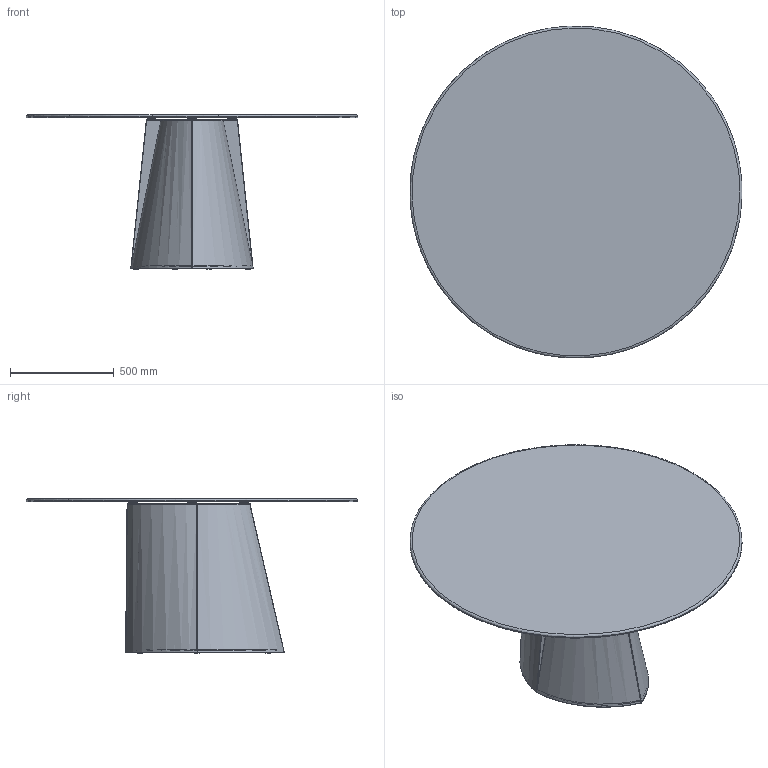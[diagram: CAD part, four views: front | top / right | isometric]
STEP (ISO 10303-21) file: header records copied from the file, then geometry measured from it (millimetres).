
FILE_DESCRIPTION(/* description */ (''),/* implementation_level */ '2;1');
FILE_NAME(/* name */ 'OGIT160_3D',/* time_stamp */ '2026-06-30T10:09:12+02:00',/* author */ (''),/* organization */ (''),/* preprocessor_version */ 'ST-DEVELOPER v16.5',/* originating_system */ '',/* authorisation */ '');
FILE_SCHEMA (('CONFIG_CONTROL_DESIGN'));
Length unit declared in the file: millimetre
Products named in the file (1): Document
Bounding box: 1599.64 x 1599.27 x 745.02 mm (x, y, z)
Volume: 34306440.9 mm3; surface area: 7724072.3 mm2
Topology: 23 solids, 23 shells, 253 faces, 511 edges, 304 vertices
Faces by surface type: plane 160, bspline 93
Entity records: 8505 total; most frequent: CARTESIAN_POINT 4865, ORIENTED_EDGE 1022, EDGE_CURVE 511, B_SPLINE_CURVE_WITH_KNOTS 360, VERTEX_POINT 304, EDGE_LOOP 273, ADVANCED_FACE 253, FACE_OUTER_BOUND 253
